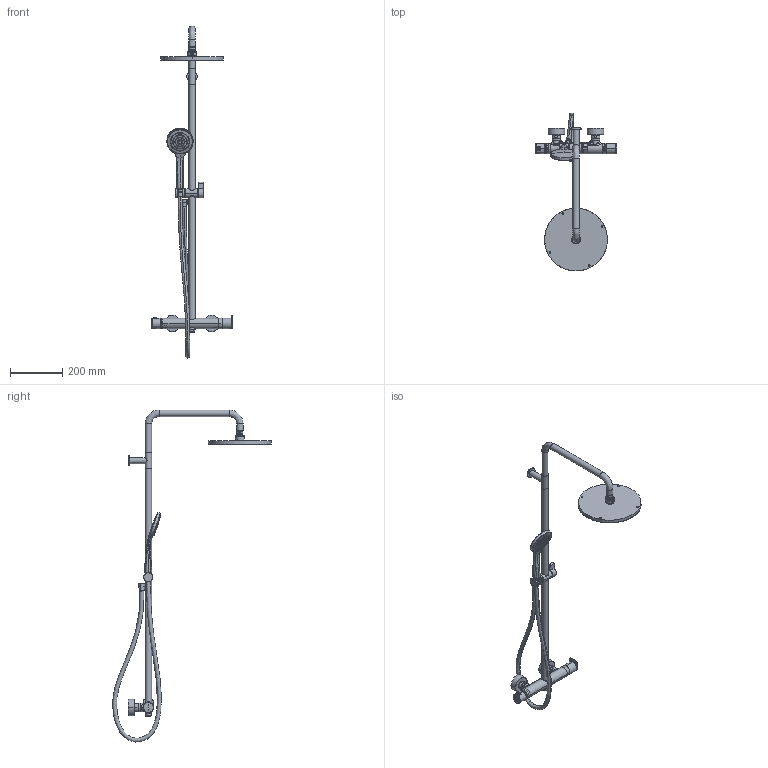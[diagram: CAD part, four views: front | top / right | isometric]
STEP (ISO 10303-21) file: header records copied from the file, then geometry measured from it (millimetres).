
FILE_DESCRIPTION(('STEP AP203'),'2;1');
FILE_NAME('DIS_3D_V629.stp','2023-02-15T11:54:42',(''),(''),'2015.2.119','THINKDESIGN','');
FILE_SCHEMA(('CONFIG_CONTROL_DESIGN'));
Length unit declared in the file: millimetre
Bounding box: 310.2 x 605.91 x 1270.04 mm (x, y, z)
Volume: 1629103.2 mm3; surface area: 572738.7 mm2
Topology: 125 solids, 125 shells, 3273 faces, 10926 edges, 9103 vertices
Faces by surface type: bspline 1513, plane 1188, cylinder 572
Full cylindrical faces by diameter (mm): 6.5 x21, 21 x1, 23 x1, 23.8 x1, 24.9 x1, 25 x5, 30 x1, 35 x1, 40 x1
Entity records: 173716 total; most frequent: CARTESIAN_POINT 96215, DIRECTION 15231, ORIENTED_EDGE 10396, COMPOSITE_CURVE_SEGMENT 5663, VECTOR 5555, LINE 5555, EDGE_CURVE 5198, AXIS2_PLACEMENT_3D 4838
